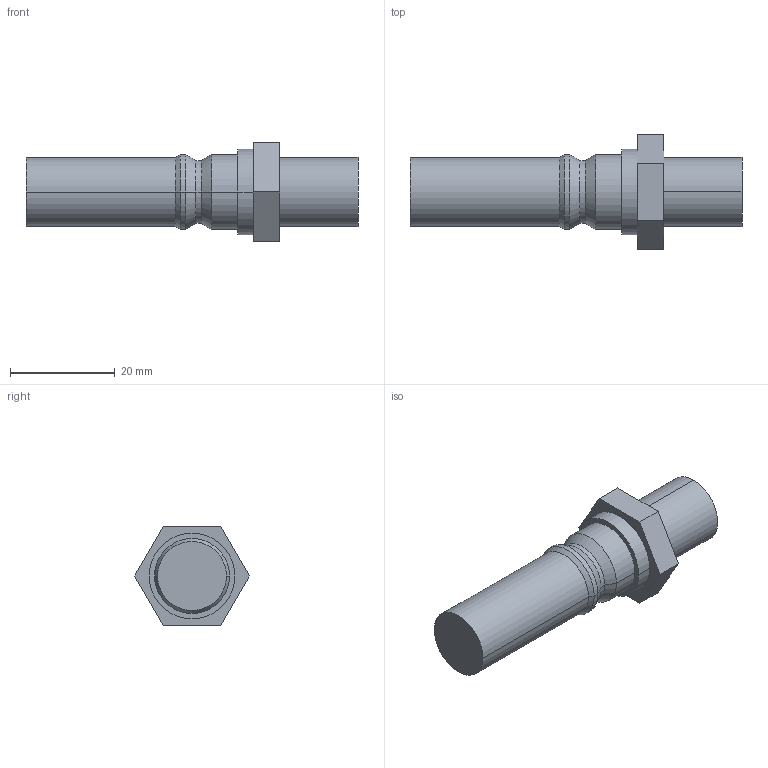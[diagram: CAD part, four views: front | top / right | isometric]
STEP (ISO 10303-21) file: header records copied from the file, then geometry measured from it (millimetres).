
FILE_DESCRIPTION (( 'STEP AP214' ), '1' );
FILE_NAME ('BR601.09 DRB 13.STEP', '2020-12-02T13:29:51', ( '' ), ( '' ), 'SwSTEP 2.0', 'SolidWorks 2018', '' );
FILE_SCHEMA (( 'AUTOMOTIVE_DESIGN' ));
Length unit declared in the file: millimetre
Products named in the file (1): BR601.09 DRB 13
Bounding box: 63.5 x 21.94 x 19 mm (x, y, z)
Volume: 9929.2 mm3; surface area: 3437.3 mm2
Topology: 1 solids, 1 shells, 29 faces, 60 edges, 36 vertices
Faces by surface type: cylinder 12, plane 11, cone 6
Entity records: 796 total; most frequent: DIRECTION 144, CARTESIAN_POINT 126, ORIENTED_EDGE 120, EDGE_CURVE 60, AXIS2_PLACEMENT_3D 54, VECTOR 36, VERTEX_POINT 36, LINE 36
